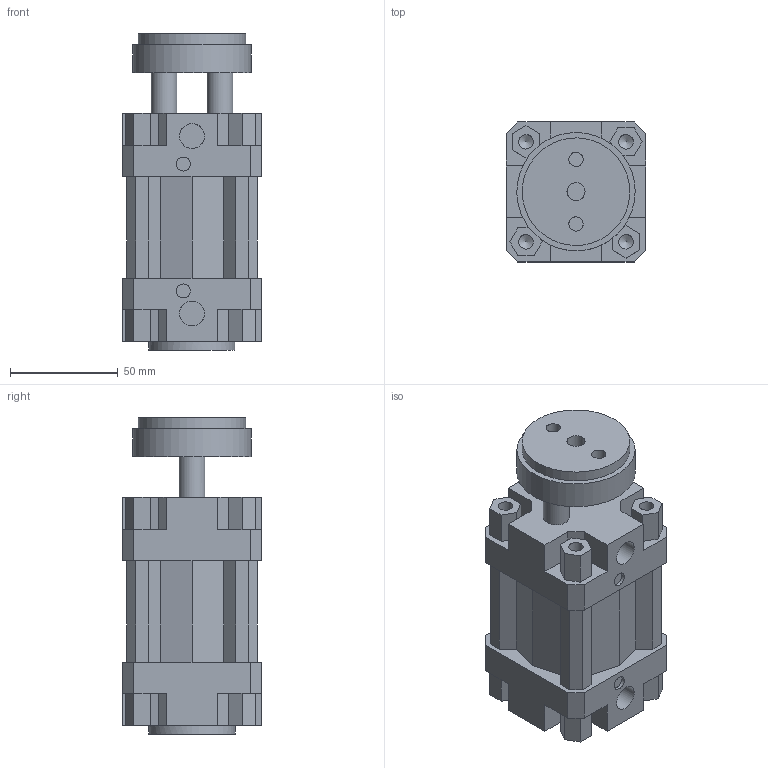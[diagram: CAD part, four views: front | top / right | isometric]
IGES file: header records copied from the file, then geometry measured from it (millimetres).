
Global section: file name: 132#_050_0000_01; native system: Autodesk Inventor 2014; preprocessor: unknown; author: A. Manieri; date: 20161006.155625; units: millimetre
Bounding box: 65 x 65 x 147 mm (x, y, z)
Volume: 399221.6 mm3; surface area: 83845.8 mm2
Topology: 2 solids, 2 shells, 180 faces, 492 edges, 336 vertices
Faces by surface type: bspline 180
